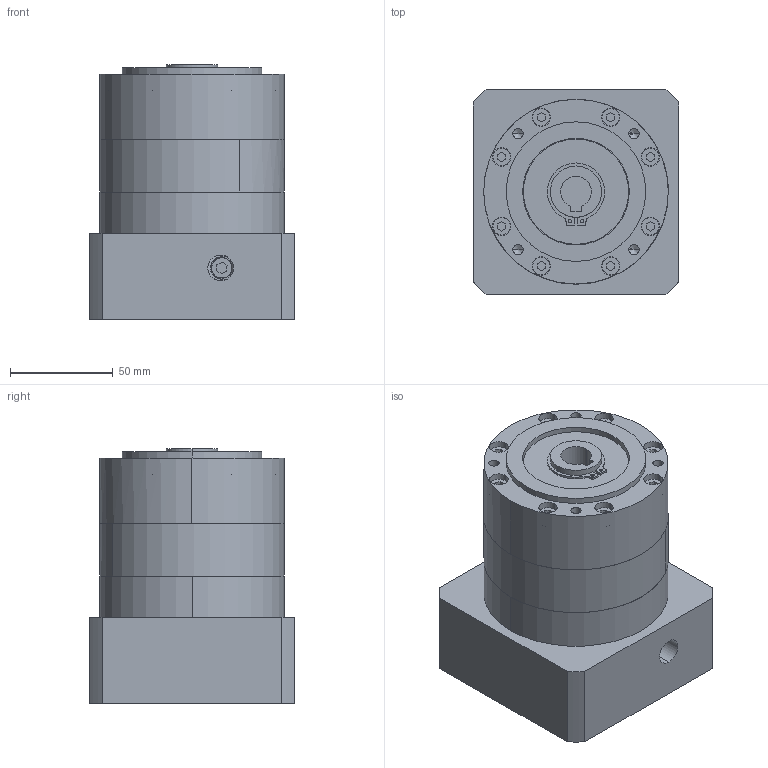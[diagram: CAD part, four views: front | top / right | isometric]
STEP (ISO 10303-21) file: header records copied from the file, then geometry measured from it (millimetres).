
FILE_DESCRIPTION (( 'STEP AP203' ), '1' );
FILE_NAME ('PBE90-L1-19-95-115.STEP', '2022-07-23T08:43:40', ( 'Windows User' ), ( 'P R C' ), 'SwSTEP 2.0', 'SolidWorks 2016', '' );
FILE_SCHEMA (( 'CONFIG_CONTROL_DESIGN' ));
Length unit declared in the file: millimetre
Products named in the file (7): 粣創-6007 35x62x14; PBE90-L1-19-95-115; PBE90 蟀諉啣-95-M8-115-100遺-LR57_D8-70 D9-90 D10-M5 A2-90 L4-32 L6-47(32+15) L7-6 R-59.5梓袧; PBE90 奻屳唳; PBE90 κｳﾝﾈｦ-ﾓﾅｻｯ_ﾒｻｼｶﾄﾚｳﾝﾈｦ; PBE90 狟屳唳_D6-90 D7-19 梓袧; 囀鞠褒蹟佪 M6x20
Assembly tree (6 placements, depth 2):
  PBE90-L1-19-95-115
    PBE90 κｳﾝﾈｦ-ﾓﾅｻｯ_ﾒｻｼｶﾄﾚｳﾝﾈｦ
    PBE90 狟屳唳_D6-90 D7-19 梓袧
    囀鞠褒蹟佪 M6x20
    粣創-6007 35x62x14
    PBE90 蟀諉啣-95-M8-115-100遺-LR57_D8-70 D9-90 D10-M5 A2-90 L4-32 L6-47(32+15) L7-6 R-59.5梓袧
    PBE90 奻屳唳
Bounding box: 100 x 100 x 124 mm (x, y, z)
Volume: 750801.3 mm3; surface area: 151529 mm2
Topology: 6 solids, 6 shells, 1063 faces, 2846 edges, 1879 vertices
Faces by surface type: plane 569, bspline 291, cylinder 185, cone 18
Entity records: 44727 total; most frequent: CARTESIAN_POINT 19183, ORIENTED_EDGE 5660, DIRECTION 4337, EDGE_CURVE 2830, VERTEX_POINT 1879, AXIS2_PLACEMENT_3D 1449, VECTOR 1439, LINE 1439
